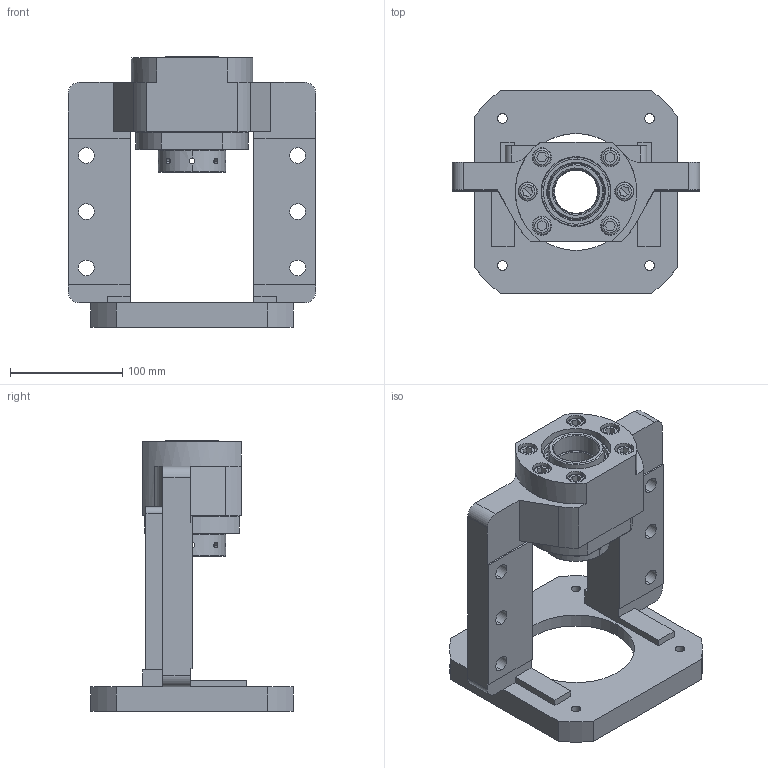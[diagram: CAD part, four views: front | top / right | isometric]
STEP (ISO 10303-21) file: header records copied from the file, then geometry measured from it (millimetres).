
FILE_DESCRIPTION (( 'STEP AP203' ), '1' );
FILE_NAME ('MBCK40L-J²Õ¦X¥ó.STEP', '2025-09-18T05:25:26', ( '' ), ( '' ), 'SwSTEP 2.0', 'SolidWorks 2018', '' );
FILE_SCHEMA (( 'CONFIG_CONTROL_DESIGN' ));
Length unit declared in the file: millimetre
Products named in the file (2): MBCK40L-J組合件
Bounding box: 220 x 180 x 241 mm (x, y, z)
Surface area: 245403.8 mm2 (no closed solid volume)
Topology: 0 solids, 33 shells, 345 faces, 957 edges, 635 vertices
Faces by surface type: cylinder 126, plane 122, cone 66, torus 18, bspline 13
Entity records: 30370 total; most frequent: CARTESIAN_POINT 21488, DIRECTION 1872, ORIENTED_EDGE 1667, EDGE_CURVE 945, AXIS2_PLACEMENT_3D 729, VERTEX_POINT 635, EDGE_LOOP 420, VECTOR 414
